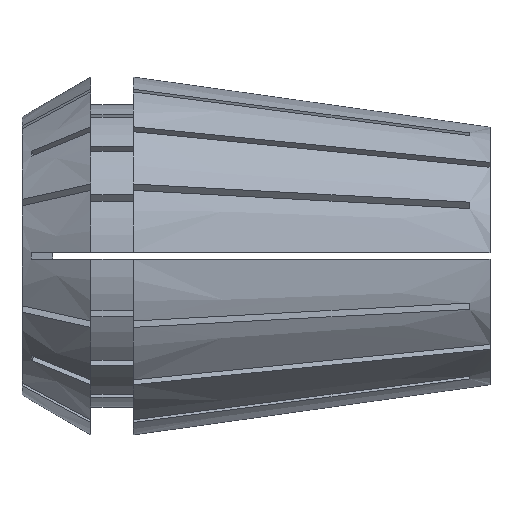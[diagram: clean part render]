
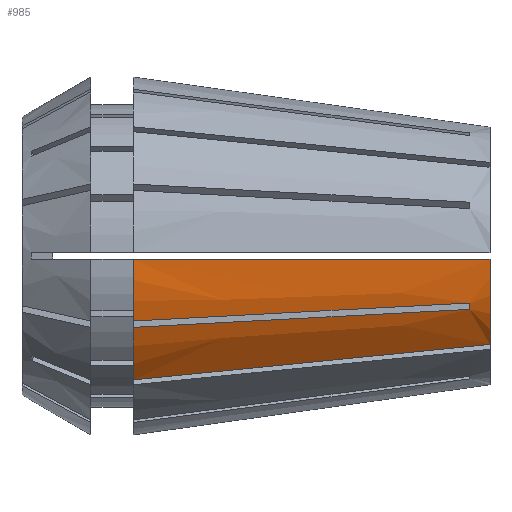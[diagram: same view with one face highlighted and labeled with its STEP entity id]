
A CAD part, top view. The second image highlights one B-rep face of the part: STEP entity #985.
In plain terms, the highlighted conical face has half-angle 8 degrees and reference radius 11.18 mm.
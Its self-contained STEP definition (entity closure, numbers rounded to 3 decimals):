
#985=ADVANCED_FACE('',(#2614),#2616,.T.);
#2614=FACE_BOUND('',#2615,.T.);
#2615=EDGE_LOOP('',(#3658,#3659,#3660,#3661,#3662,#3663,#3664,#3665));
#2616=CONICAL_SURFACE('',#2617,11.18,0.14);
#2617=AXIS2_PLACEMENT_3D('',#2618,#2619,#2620);
#2618=CARTESIAN_POINT('',(21.05,0.,0.));
#2619=DIRECTION('',(-1.,0.,0.));
#2620=DIRECTION('',(0.,-1.,0.));
#3658=ORIENTED_EDGE('',*,*,#4111,.F.);
#3659=ORIENTED_EDGE('',*,*,#4325,.T.);
#3660=ORIENTED_EDGE('',*,*,#4108,.T.);
#3661=ORIENTED_EDGE('',*,*,#4324,.T.);
#3662=ORIENTED_EDGE('',*,*,#4179,.T.);
#3663=ORIENTED_EDGE('',*,*,#4176,.F.);
#3664=ORIENTED_EDGE('',*,*,#4173,.F.);
#3665=ORIENTED_EDGE('',*,*,#4326,.T.);
#4108=EDGE_CURVE('',#4726,#4724,#4727,.T.);
#4111=EDGE_CURVE('',#4729,#4731,#4732,.T.);
#4173=EDGE_CURVE('',#4841,#4843,#4844,.T.);
#4176=EDGE_CURVE('',#4843,#4847,#4848,.T.);
#4179=EDGE_CURVE('',#4852,#4847,#4853,.T.);
#4324=EDGE_CURVE('',#4724,#4852,#5093,.T.);
#4325=EDGE_CURVE('',#4729,#4726,#5094,.T.);
#4326=EDGE_CURVE('',#4841,#4731,#5095,.T.);
#4724=VERTEX_POINT('',#6579);
#4726=VERTEX_POINT('',#6583);
#4727=B_SPLINE_CURVE_WITH_KNOTS('',3,
(#6584,#6585,#6586,#6587,#6588,#6589,#6590),
.UNSPECIFIED.,.F.,.F.,
(4,3,4),
(0.,0.682,1.),
.UNSPECIFIED.);
#4729=VERTEX_POINT('',#6594);
#4731=VERTEX_POINT('',#6598);
#4732=B_SPLINE_CURVE_WITH_KNOTS('',3,
(#6599,#6600,#6601,#6602,#6603,#6604,#6605),
.UNSPECIFIED.,.F.,.F.,
(4,3,4),
(0.,0.682,1.),
.UNSPECIFIED.);
#4841=VERTEX_POINT('',#6874);
#4843=VERTEX_POINT('',#6878);
#4844=B_SPLINE_CURVE_WITH_KNOTS('',3,
(#6879,#6880,#6881,#6882),
.UNSPECIFIED.,.F.,.F.,
(4,4),
(0.,1.),
.UNSPECIFIED.);
#4847=VERTEX_POINT('',#6889);
#4848=CIRCLE('',#6890,9.36);
#4852=VERTEX_POINT('',#6901);
#4853=B_SPLINE_CURVE_WITH_KNOTS('',3,
(#6902,#6903,#6904,#6905,#6906,#6907,#6908),
.UNSPECIFIED.,.F.,.F.,
(4,3,4),
(0.,0.873,1.),
.UNSPECIFIED.);
#5093=CIRCLE('',#7538,13.);
#5094=CIRCLE('',#7542,9.571);
#5095=CIRCLE('',#7546,13.);
#6579=CARTESIAN_POINT('',(8.1,-5.205,11.913));
#6583=CARTESIAN_POINT('',(32.5,-3.892,8.744));
#6584=CARTESIAN_POINT('',(32.5,-3.892,8.744));
#6585=CARTESIAN_POINT('',(26.954,-4.191,9.464));
#6586=CARTESIAN_POINT('',(21.407,-4.489,10.184));
#6587=CARTESIAN_POINT('',(15.861,-4.787,10.905));
#6588=CARTESIAN_POINT('',(13.274,-4.927,11.241));
#6589=CARTESIAN_POINT('',(10.687,-5.066,11.577));
#6590=CARTESIAN_POINT('',(8.1,-5.205,11.913));
#6594=CARTESIAN_POINT('',(32.5,-3.43,8.935));
#6598=CARTESIAN_POINT('',(8.1,-4.743,12.104));
#6599=CARTESIAN_POINT('',(32.5,-3.43,8.935));
#6600=CARTESIAN_POINT('',(26.954,-3.729,9.655));
#6601=CARTESIAN_POINT('',(21.407,-4.027,10.376));
#6602=CARTESIAN_POINT('',(15.861,-4.326,11.096));
#6603=CARTESIAN_POINT('',(13.274,-4.465,11.432));
#6604=CARTESIAN_POINT('',(10.687,-4.604,11.768));
#6605=CARTESIAN_POINT('',(8.1,-4.743,12.104));
#6874=CARTESIAN_POINT('',(8.1,-0.25,12.998));
#6878=CARTESIAN_POINT('',(34.,-0.25,9.357));
#6879=CARTESIAN_POINT('',(8.1,-0.25,12.998));
#6880=CARTESIAN_POINT('',(16.733,-0.25,11.784));
#6881=CARTESIAN_POINT('',(25.367,-0.25,10.57));
#6882=CARTESIAN_POINT('',(34.,-0.25,9.357));
#6889=CARTESIAN_POINT('',(34.,-6.439,6.793));
#6890=AXIS2_PLACEMENT_3D('',#6891,#6892,#6893);
#6891=CARTESIAN_POINT('',(34.,0.,0.));
#6892=DIRECTION('',(1.,0.,-0.));
#6893=DIRECTION('',(0.,-0.027,1.));
#6901=CARTESIAN_POINT('',(8.1,-9.014,9.367));
#6902=CARTESIAN_POINT('',(8.1,-9.014,9.367));
#6903=CARTESIAN_POINT('',(15.634,-8.265,8.619));
#6904=CARTESIAN_POINT('',(23.167,-7.516,7.87));
#6905=CARTESIAN_POINT('',(30.701,-6.767,7.121));
#6906=CARTESIAN_POINT('',(31.801,-6.658,7.012));
#6907=CARTESIAN_POINT('',(32.9,-6.549,6.902));
#6908=CARTESIAN_POINT('',(34.,-6.439,6.793));
#7538=AXIS2_PLACEMENT_3D('',#7539,#7540,#7541);
#7539=CARTESIAN_POINT('',(8.1,0.,0.));
#7540=DIRECTION('',(1.,0.,-0.));
#7541=DIRECTION('',(0.,-0.4,0.916));
#7542=AXIS2_PLACEMENT_3D('',#7543,#7544,#7545);
#7543=CARTESIAN_POINT('',(32.5,0.,0.));
#7544=DIRECTION('',(1.,0.,0.));
#7545=DIRECTION('',(0.,-0.358,0.934));
#7546=AXIS2_PLACEMENT_3D('',#7547,#7548,#7549);
#7547=CARTESIAN_POINT('',(8.1,0.,0.));
#7548=DIRECTION('',(1.,0.,-0.));
#7549=DIRECTION('',(0.,-0.019,1.));
